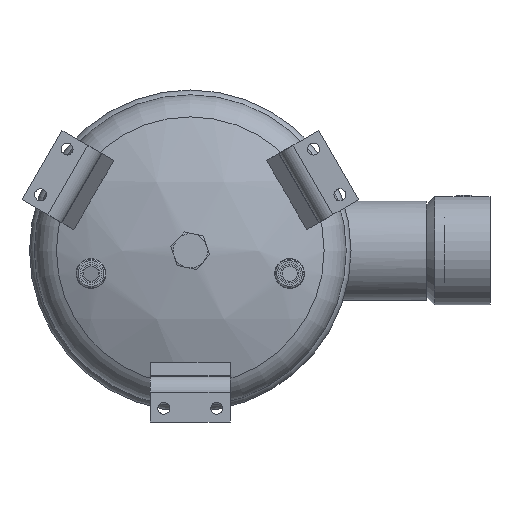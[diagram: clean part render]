
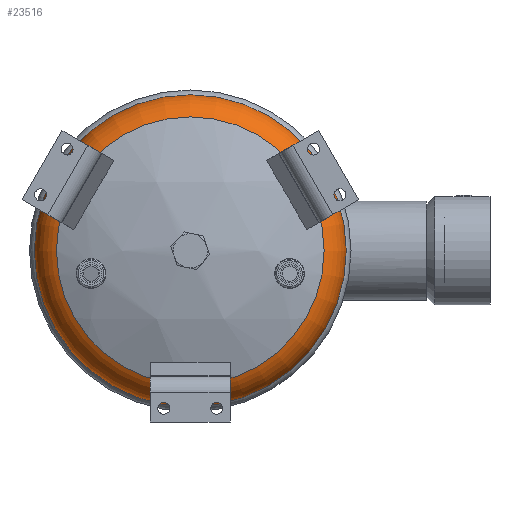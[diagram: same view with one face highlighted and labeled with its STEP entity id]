
A CAD part, front view. The second image highlights one B-rep face of the part: STEP entity #23516.
In plain terms, the highlighted toroidal (fillet/blend) face has major radius 103.2 mm and minor radius 33.4 mm.
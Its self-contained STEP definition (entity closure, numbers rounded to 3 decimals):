
#512=TOROIDAL_SURFACE('',#25021,103.2,33.4);
#5222=FACE_BOUND('',#7607,.T.);
#5459=CIRCLE('',#25019,136.6);
#5461=CIRCLE('',#25022,117.235);
#6159=FACE_OUTER_BOUND('',#7606,.T.);
#7606=EDGE_LOOP('',(#16553));
#7607=EDGE_LOOP('',(#16554));
#10132=VERTEX_POINT('',#33009);
#10134=VERTEX_POINT('',#33014);
#12658=EDGE_CURVE('',#10132,#10132,#5459,.T.);
#12660=EDGE_CURVE('',#10134,#10134,#5461,.T.);
#16553=ORIENTED_EDGE('',*,*,#12660,.F.);
#16554=ORIENTED_EDGE('',*,*,#12658,.T.);
#23516=ADVANCED_FACE('',(#6159,#5222),#512,.T.);
#25019=AXIS2_PLACEMENT_3D('',#33010,#27276,#27277);
#25021=AXIS2_PLACEMENT_3D('',#33013,#27280,#27281);
#25022=AXIS2_PLACEMENT_3D('',#33015,#27282,#27283);
#27276=DIRECTION('center_axis',(0.,-1.,0.));
#27277=DIRECTION('ref_axis',(-1.,0.,0.));
#27280=DIRECTION('center_axis',(0.,-1.,0.));
#27281=DIRECTION('ref_axis',(0.,0.,
1.));
#27282=DIRECTION('center_axis',(0.,-1.,0.));
#27283=DIRECTION('ref_axis',(-1.,0.,0.));
#33009=CARTESIAN_POINT('',(-136.6,-32.232,0.));
#33010=CARTESIAN_POINT('Origin',(0.,-32.232,
0.));
#33013=CARTESIAN_POINT('Origin',(0.,-32.232,
0.));
#33014=CARTESIAN_POINT('',(-117.235,-62.54,0.));
#33015=CARTESIAN_POINT('Origin',(0.,-62.54,
0.));
